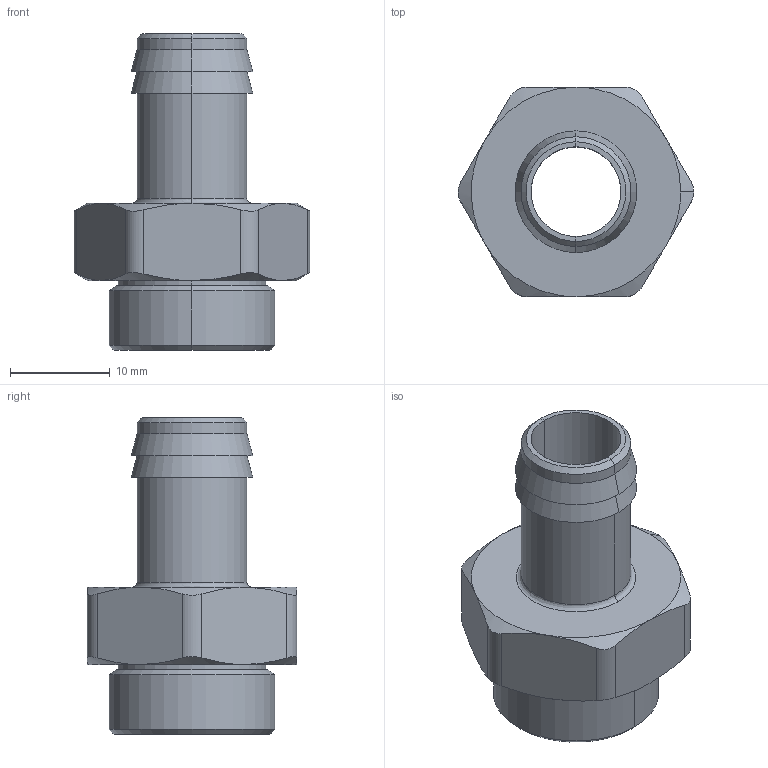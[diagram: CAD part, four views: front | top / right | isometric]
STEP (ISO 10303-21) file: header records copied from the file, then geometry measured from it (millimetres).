
FILE_DESCRIPTION(/* description */ (''),/* implementation_level */ '2;1');
FILE_NAME(/* name */ 'FIT_V10G38',/* time_stamp */ '2025-07-11T10:41:39+09:00',/* author */ (''),/* organization */ (''),/* preprocessor_version */ 'ST-DEVELOPER v19.2',/* originating_system */ 'Rhino 8.10',/* authorisation */ '');
FILE_SCHEMA (('CONFIG_CONTROL_DESIGN'));
Length unit declared in the file: millimetre
Products named in the file (1): Document
Bounding box: 23.63 x 21 x 31.75 mm (x, y, z)
Volume: 3509.9 mm3; surface area: 3150.7 mm2
Topology: 1 solids, 1 shells, 66 faces, 144 edges, 80 vertices
Faces by surface type: bspline 30, plane 18, cylinder 18
Entity records: 2280 total; most frequent: CARTESIAN_POINT 1033, ORIENTED_EDGE 288, EDGE_CURVE 144, DIRECTION 140, AXIS2_PLACEMENT_3D 88, B_SPLINE_CURVE_WITH_KNOTS 83, VERTEX_POINT 80, EDGE_LOOP 68
